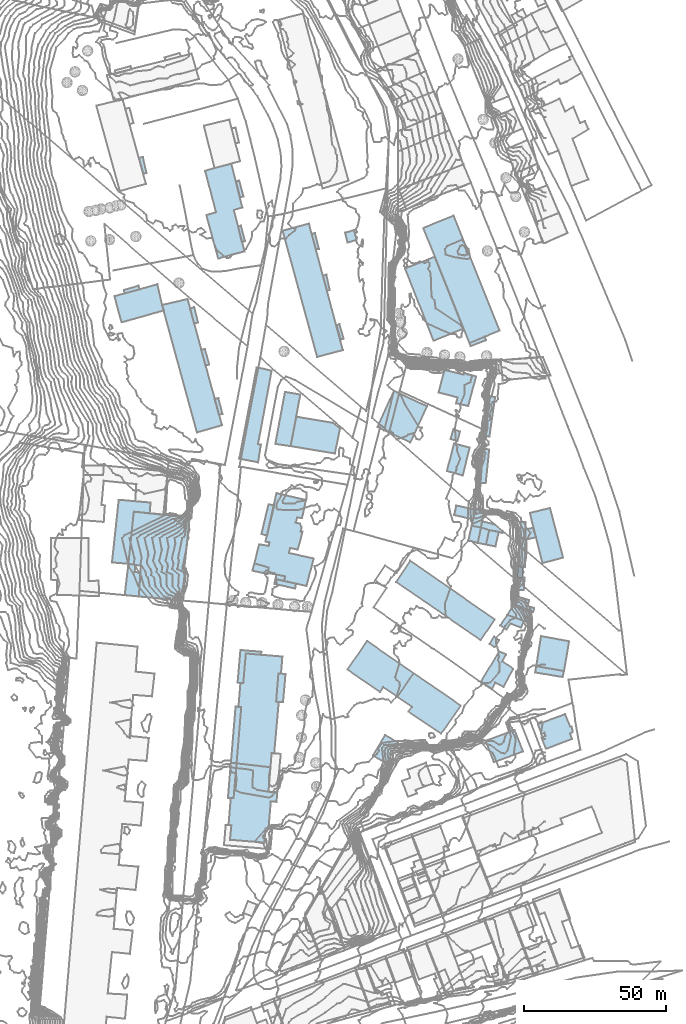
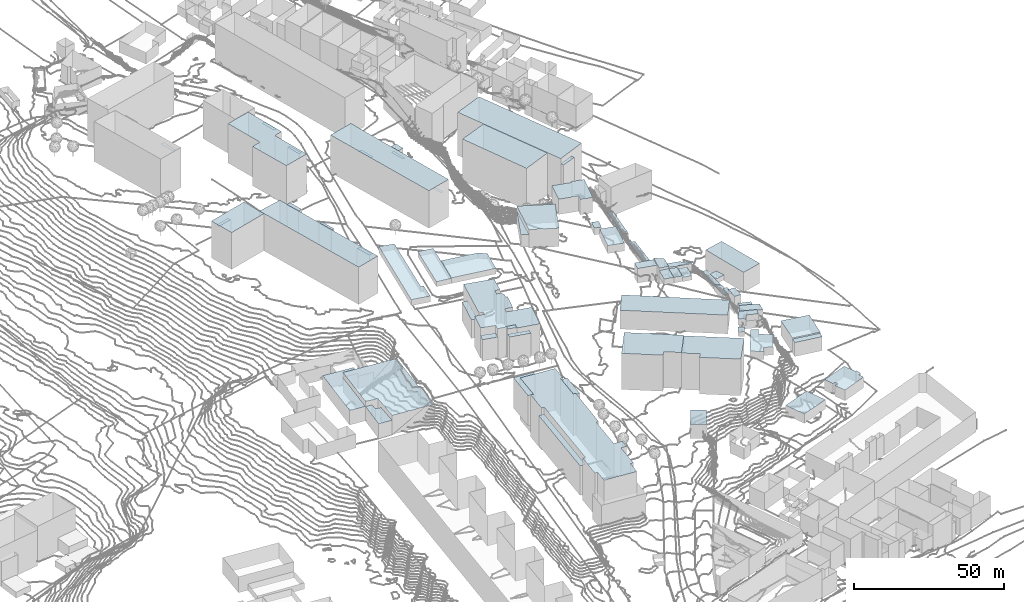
# Not in any storey, part 95 of 419: 65 roofs.
"""IFC2X3 model written with IfcOpenShell, lengths in metres."""

from ifc_helpers import new_model, si_unit, frame, origin_with_axes, place, context, subcontext, project, faceted_brep, element, save


model = new_model("IFC2X3")

# Units and contexts
model_context = context("Model", 3, precision=1e-05, world=origin_with_axes())
body_context = subcontext(model_context, "Body", "Model", "MODEL_VIEW")
ifc_project = project(units=[si_unit("AREAUNIT", "SQUARE_METRE"), si_unit("LENGTHUNIT", "METRE")], contexts=[model_context])

# Roofs
roof_1_placement = place(None, frame((966.4920204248, 798.5976909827, 87.6229010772), z_axis=(0.0, 0.0, 1.0), x_axis=(1.0, 0.0, 0.0)))
element("IfcRoof", 1, at=roof_1_placement, Name="Toiture 0", ShapeType="NOTDEFINED", context=body_context, shape_type="Brep", body=[
    faceted_brep([(0.2, 3.0999999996, 6.9770989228), (0.0, 0.0, 6.9770989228), (2.4, -0.1000000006, 6.9770989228), (2.7, 4.3999999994, 6.9770989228), (0.1, 4.5999999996, 6.9770989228)], [[[0, 1, 2]], [[2, 3, 4]], [[4, 0, 2]]]),
])
roof_2_placement = place(None, frame((919.6920204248, 854.8976909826, 96.6100009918), z_axis=(0.0, 0.0, 1.0), x_axis=(1.0, 0.0, 0.0)))
element("IfcRoof", 2, at=roof_2_placement, Name="Toiture 0", ShapeType="NOTDEFINED", context=body_context, shape_type="Brep", body=[
    faceted_brep([(13.4, 9.2000000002, 7.4899990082), (3.4, 13.9000000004, 7.4899990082), (0.0, 0.0, 7.4899990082), (9.2000000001, -4.2999999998, 7.4899990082), (15.1, 8.5, 7.4899990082)], [[[0, 1, 2]], [[2, 3, 4]], [[4, 0, 2]]]),
])
roof_3_placement = place(None, frame((953.7920204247, 766.2976909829, 93.1307992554), z_axis=(0.0, 0.0, 1.0), x_axis=(1.0, 0.0, 0.0)))
element("IfcRoof", 3, at=roof_3_placement, Name="Toiture 0", ShapeType="NOTDEFINED", context=body_context, shape_type="Brep", body=[
    faceted_brep([(8.8, 9.5999999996, 3.2692007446), (6.4, 10.5999999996, 3.2692007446), (0.0, 0.0, 3.2692007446), (3.9, -2.6000000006, 3.2692007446), (5.0, -0.4000000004, 3.2692007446), (7.9, -1.9000000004, 3.2692007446), (11.4, 4.5, 3.2692007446), (7.5, 7.0999999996, 3.2692007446)], [[[0, 1, 2]], [[2, 3, 4]], [[4, 5, 6]], [[7, 0, 2]], [[2, 4, 6]], [[6, 7, 2]]]),
])
roof_4_placement = place(None, frame((864.7920204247, 715.6976909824, 91.3789970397), z_axis=(0.0, 0.0, 1.0), x_axis=(1.0, 0.0, 0.0)))
element("IfcRoof", 4, at=roof_4_placement, Name="Toiture 0", ShapeType="NOTDEFINED", context=body_context, shape_type="Brep", body=[
    faceted_brep([(5.2000000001, 50.0, 17.1210029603), (4.2000000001, 50.1000000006, 17.1210029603), (3.5, 41.7000000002, 17.1210029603), (1.8, 9.5, 17.1210029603), (0.8, 9.5, 17.1210029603), (0.0, 0.0, 17.1210029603), (1.0, -0.0999999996, 17.1210029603), (0.5, -5.2000000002, 17.1210029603), (12.6000000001, -6.2000000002, 17.1210029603), (13.1000000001, -1.2000000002, 17.1210029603), (14.1000000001, -1.2999999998, 17.1210029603), (14.9, 8.2999999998, 17.1210029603), (16.9, 8.2000000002, 17.1210029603), (17.2000000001, 11.5, 17.1210029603), (15.2000000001, 25.4000000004, 17.1210029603), (16.1000000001, 25.2999999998, 17.1210029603), (17.7000000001, 43.4000000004, 17.1210029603), (17.6000000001, 53.5, 17.1210029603), (18.5, 53.4000000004, 17.1210029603), (19.0, 59.4000000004, 17.1210029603), (6.1000000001, 60.5, 17.1210029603), (4.5, 41.6000000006, 17.1210029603), (14.1000000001, 11.7999999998, 17.1210029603), (16.8, 43.5, 17.1210029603)], [[[0, 1, 2]], [[3, 4, 5]], [[6, 7, 8]], [[9, 10, 11]], [[11, 12, 13]], [[14, 15, 16]], [[17, 18, 19]], [[19, 20, 0]], [[0, 2, 21]], [[3, 5, 6]], [[6, 8, 9]], [[11, 13, 22]], [[14, 16, 23]], [[17, 19, 0]], [[21, 3, 6]], [[6, 9, 11]], [[14, 23, 17]], [[17, 0, 21]], [[21, 6, 11]], [[14, 17, 21]], [[21, 11, 22]], [[22, 14, 21]]]),
])
roof_5_placement = place(None, frame((867.9920204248, 765.8976909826, 96.2319999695), z_axis=(0.0, 0.0, 1.0), x_axis=(1.0, 0.0, 0.0)))
element("IfcRoof", 5, at=roof_5_placement, Name="Toiture 0", ShapeType="NOTDEFINED", context=body_context, shape_type="Brep", body=[
    faceted_brep([(2.9, 10.2999999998, 12.2680000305), (8.2999999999, 9.7999999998, 12.2680000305), (8.4, 10.9000000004, 12.2680000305), (1.0, 11.5, 12.2680000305), (0.0, 0.0, 12.2680000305), (2.0, -0.2000000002, 12.2680000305)], [[[0, 1, 2]], [[3, 4, 5]], [[0, 2, 3]], [[3, 5, 0]]]),
])
roof_6_placement = place(None, frame((972.8920204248, 769.4976909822, 85.5200004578), z_axis=(0.0, 0.0, 1.0), x_axis=(1.0, 0.0, 0.0)))
element("IfcRoof", 6, at=roof_6_placement, Name="Toiture 0", ShapeType="NOTDEFINED", context=body_context, shape_type="Brep", body=[
    faceted_brep([(10.2, 0.5, 5.6799995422), (0.3999999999, 2.2000000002, 5.6799995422), (0.0, 0.0, 5.6799995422), (9.7, -1.5999999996, 5.6799995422)], [[[0, 1, 2]], [[2, 3, 0]]]),
])
roof_7_placement = place(None, frame((953.7920204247, 820.5976909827, 94.747599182), z_axis=(0.0, 0.0, 1.0), x_axis=(1.0, 0.0, 0.0)))
element("IfcRoof", 7, at=roof_7_placement, Name="Toiture 0", ShapeType="NOTDEFINED", context=body_context, shape_type="Brep", body=[
    faceted_brep([(0.4, 2.2000000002, 2.852400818), (0.0, 0.0, 2.852400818), (2.9, -0.9000000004, 2.852400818), (7.7000000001, -1.9000000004, 2.852400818), (7.8, -1.4000000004, 2.852400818), (4.8, 1.0999999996, 2.852400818)], [[[0, 1, 2]], [[2, 3, 4]], [[4, 5, 0]], [[0, 2, 4]]]),
])
roof_8_placement = place(None, frame((856.5920204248, 946.3976909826, 97.8904017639), z_axis=(0.0, 0.0, 1.0), x_axis=(1.0, 0.0, 0.0)))
element("IfcRoof", 8, at=roof_8_placement, Name="Toiture 0", ShapeType="NOTDEFINED", context=body_context, shape_type="Brep", body=[
    faceted_brep([(9.2, 2.5, 16.0095982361), (3.3, 1.0, 16.0095982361), (0.0, 0.0, 16.0095982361), (3.8, -14.5999999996, 16.0095982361), (0.4, -15.5999999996, 16.0095982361), (4.6, -30.9000000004, 16.0095982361), (13.9, -28.4000000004, 16.0095982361), (10.1, -13.7999999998, 16.0095982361), (13.1, -12.9000000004, 16.0095982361)], [[[0, 1, 2]], [[3, 4, 5]], [[5, 6, 7]], [[7, 8, 0]], [[0, 2, 3]], [[3, 5, 7]], [[7, 0, 3]]]),
])
roof_9_placement = place(None, frame((955.4920204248, 745.3976909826, 82.5194986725), z_axis=(0.0, 0.0, 1.0), x_axis=(1.0, 0.0, 0.0)))
element("IfcRoof", 9, at=roof_9_placement, Name="Toiture 0", ShapeType="NOTDEFINED", context=body_context, shape_type="Brep", body=[
    faceted_brep([(13.2, -3.7000000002, 3.7805013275), (10.2, 3.7999999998, 3.7805013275), (0.0, 0.0, 3.7805013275), (2.9, -7.5, 3.7805013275)], [[[0, 1, 2]], [[2, 3, 0]]]),
])
roof_10_placement = place(None, frame((973.8920204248, 751.2976909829, 82.4180023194), z_axis=(0.0, 0.0, 1.0), x_axis=(1.0, 0.0, 0.0)))
element("IfcRoof", 10, at=roof_10_placement, Name="Toiture 0", ShapeType="NOTDEFINED", context=body_context, shape_type="Brep", body=[
    faceted_brep([(2.7, -4.2000000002, 4.3819976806), (1.6, -4.5, 4.3819976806), (1.2999999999, -4.7000000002, 4.3819976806), (2.8999999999, -8.7000000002, 4.3819976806), (12.0, -5.2000000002, 4.3819976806), (11.3999999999, -3.3000000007, 4.3819976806), (12.2999999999, -2.8000000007, 4.3819976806), (11.8999999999, -0.8000000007, 4.3819976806), (11.3999999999, -0.9000000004, 4.3819976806), (9.6, 3.5, 4.3819976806), (0.0, 0.0, 4.3819976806), (1.2999999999, -3.5, 4.3819976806), (2.2999999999, -3.0, 4.3819976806)], [[[0, 1, 2]], [[2, 3, 4]], [[5, 6, 7]], [[8, 9, 10]], [[10, 11, 12]], [[0, 2, 4]], [[5, 7, 8]], [[8, 10, 12]], [[12, 0, 4]], [[5, 8, 12]], [[12, 4, 5]]]),
])
roof_11_placement = place(None, frame((971.0920204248, 825.7976909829, 87.4388011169), z_axis=(0.0, 0.0, 1.0), x_axis=(1.0, 0.0, 0.0)))
element("IfcRoof", 11, at=roof_11_placement, Name="Toiture 0", ShapeType="NOTDEFINED", context=body_context, shape_type="Brep", body=[
    faceted_brep([(0.0, 0.0, 8.0611988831), (2.1, -8.6000000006, 8.0611988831), (4.4, -17.7000000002, 8.0611988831), (11.7, -15.8000000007, 8.0611988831), (7.1, 1.6999999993, 8.0611988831)], [[[0, 1, 2]], [[2, 3, 4]], [[4, 0, 2]]]),
])
roof_12_placement = place(None, frame((969.3920204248, 816.2976909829, 87.8224008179), z_axis=(0.0, 0.0, 1.0), x_axis=(1.0, 0.0, 0.0)))
element("IfcRoof", 12, at=roof_12_placement, Name="Toiture 0", ShapeType="NOTDEFINED", context=body_context, shape_type="Brep", body=[
    faceted_brep([(0.1, 3.6999999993, 1.9775991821), (0.0, 0.0, 1.9775991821), (3.7999999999, 0.8999999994, 1.9775991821), (2.7999999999, 4.1999999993, 1.9775991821)], [[[0, 1, 2]], [[2, 3, 0]]]),
])
roof_13_placement = place(None, frame((859.8920204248, 865.9976909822, 97.2720973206), z_axis=(0.0, 0.0, 1.0), x_axis=(1.0, 0.0, 0.0)))
element("IfcRoof", 13, at=roof_13_placement, Name="Toiture 0", ShapeType="NOTDEFINED", context=body_context, shape_type="Brep", body=[
    faceted_brep([(0.0, 0.0, 13.4279026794), (1.5, -5.5999999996, 13.4279026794), (2.7999999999, -5.2999999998, 13.4279026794), (1.2999999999, 0.2000000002, 13.4279026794)], [[[0, 1, 2]], [[2, 3, 0]]]),
])
roof_14_placement = place(None, frame((873.8920204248, 807.8976909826, 96.2265022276), z_axis=(0.0, 0.0, 1.0), x_axis=(1.0, 0.0, 0.0)))
element("IfcRoof", 14, at=roof_14_placement, Name="Toiture 0", ShapeType="NOTDEFINED", context=body_context, shape_type="Brep", body=[
    faceted_brep([(1.7, 6.7999999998, 12.3734977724), (0.0, 0.0, 12.3734977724), (5.1, -1.4000000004, 12.3734977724), (4.7, -3.2999999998, 12.3734977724), (10.8999999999, -4.5, 12.3734977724), (10.5, -6.2000000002, 12.3734977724), (18.3999999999, -7.9000000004, 12.3734977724), (20.8999999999, 1.7999999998, 12.3734977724), (12.2, 3.7000000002, 12.3734977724), (12.6, 5.5, 12.3734977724), (15.2999999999, 4.9000000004, 12.3734977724), (17.0, 11.2999999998, 12.3734977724), (16.2999999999, 11.2999999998, 12.3734977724), (16.7, 12.7999999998, 12.3734977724), (16.1, 14.0999999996, 12.3734977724), (15.1, 16.2999999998, 12.3734977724), (16.7999999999, 16.0, 12.3734977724), (18.2, 22.4000000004, 12.3734977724), (7.7999999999, 24.7999999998, 12.3734977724), (3.8999999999, 7.7000000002, 12.3734977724), (5.1, 6.2000000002, 12.3734977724), (14.6, 14.4000000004, 12.3734977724), (5.2999999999, 7.5, 12.3734977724)], [[[0, 1, 2]], [[2, 3, 4]], [[4, 5, 6]], [[6, 7, 8]], [[9, 10, 11]], [[12, 13, 14]], [[15, 16, 17]], [[17, 18, 19]], [[20, 0, 2]], [[2, 4, 6]], [[9, 11, 12]], [[12, 14, 21]], [[15, 17, 19]], [[22, 20, 2]], [[2, 6, 8]], [[9, 12, 21]], [[21, 15, 19]], [[22, 2, 8]], [[21, 19, 22]], [[22, 8, 9]], [[9, 21, 22]]]),
])
roof_15_placement = place(None, frame((955.0920204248, 852.8976909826, 88.6566027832), z_axis=(0.0, 0.0, 1.0), x_axis=(1.0, 0.0, 0.0)))
element("IfcRoof", 15, at=roof_15_placement, Name="Toiture 0", ShapeType="NOTDEFINED", context=body_context, shape_type="Brep", body=[
    faceted_brep([(3.7, 13.7000000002, 2.3433972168), (1.7, 14.0, 2.3433972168), (0.0, 0.0, 2.3433972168), (1.7, -0.2000000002, 2.3433972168)], [[[0, 1, 2]], [[2, 3, 0]]]),
])
roof_16_placement = place(None, frame((851.1920204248, 897.8976909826, 97.4899997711), z_axis=(0.0, 0.0, 1.0), x_axis=(1.0, 0.0, 0.0)))
element("IfcRoof", 16, at=roof_16_placement, Name="Toiture 0", ShapeType="NOTDEFINED", context=body_context, shape_type="Brep", body=[
    faceted_brep([(1.5, 0.4000000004, 14.8100002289), (0.0, 0.0, 14.8100002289), (1.5, -5.2999999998, 14.8100002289), (2.9, -5.0, 14.8100002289)], [[[0, 1, 2]], [[2, 3, 0]]]),
])
roof_17_placement = place(None, frame((867.4920204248, 942.6976909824, 98.3299980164), z_axis=(0.0, 0.0, 1.0), x_axis=(1.0, 0.0, 0.0)))
element("IfcRoof", 17, at=roof_17_placement, Name="Toiture 0", ShapeType="NOTDEFINED", context=body_context, shape_type="Brep", body=[
    faceted_brep([(1.1, 0.2000000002, 14.1700019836), (0.0, 0.0, 14.1700019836), (1.4, -5.5999999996, 14.1700019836), (2.6, -5.2999999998, 14.1700019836)], [[[0, 1, 2]], [[2, 3, 0]]]),
])
roof_18_placement = place(None, frame((881.5920204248, 759.1976909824, 96.2240005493), z_axis=(0.0, 0.0, 1.0), x_axis=(1.0, 0.0, 0.0)))
element("IfcRoof", 18, at=roof_18_placement, Name="Toiture 0", ShapeType="NOTDEFINED", context=body_context, shape_type="Brep", body=[
    faceted_brep([(3.3, 9.7000000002, 11.7759994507), (1.7, 9.9000000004, 11.7759994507), (0.8, 10.0, 11.7759994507), (0.0, 0.0, 11.7759994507), (2.4, -0.2000000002, 11.7759994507)], [[[0, 1, 2]], [[2, 3, 4]], [[4, 0, 2]]]),
])
roof_19_placement = place(None, frame((956.7920204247, 779.5976909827, 93.3320007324), z_axis=(0.0, 0.0, 1.0), x_axis=(1.0, 0.0, 0.0)))
element("IfcRoof", 19, at=roof_19_placement, Name="Toiture 0", ShapeType="NOTDEFINED", context=body_context, shape_type="Brep", body=[
    faceted_brep([(3.4, 1.2999999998, 1.7679992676), (1.6000000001, 2.5, 1.7679992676), (0.0, 0.0, 1.7679992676), (1.8, -1.2000000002, 1.7679992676)], [[[0, 1, 2]], [[2, 3, 0]]]),
])
roof_20_placement = place(None, frame((924.2920204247, 760.8976909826, 94.2938012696), z_axis=(0.0, 0.0, 1.0), x_axis=(1.0, 0.0, 0.0)))
element("IfcRoof", 20, at=roof_20_placement, Name="Toiture 0", ShapeType="NOTDEFINED", context=body_context, shape_type="Brep", body=[
    faceted_brep([(22.4, -3.0999999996, 14.9061987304), (5.7000000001, 8.2999999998, 14.9061987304), (0.0, 0.0, 14.9061987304), (5.2000000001, -3.5, 14.9061987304), (3.9, -5.2000000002, 14.9061987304), (15.4, -13.0, 14.9061987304)], [[[0, 1, 2]], [[3, 4, 5]], [[0, 2, 3]], [[3, 5, 0]]]),
])
roof_21_placement = place(None, frame((927.0920204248, 911.9976909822, 86.8095017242), z_axis=(0.0, 0.0, 1.0), x_axis=(1.0, 0.0, 0.0)))
element("IfcRoof", 21, at=roof_21_placement, Name="Toiture 0", ShapeType="NOTDEFINED", context=body_context, shape_type="Brep", body=[
    faceted_brep([(10.0, -25.5, 16.9904982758), (20.5, -21.1999999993, 16.9904982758), (10.4, 4.1000000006, 16.9904982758), (0.0, 0.0, 16.9904982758)], [[[0, 1, 2]], [[2, 3, 0]]]),
])
roof_22_placement = place(None, frame((886.6920204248, 849.2976909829, 97.1301996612), z_axis=(0.0, 0.0, 1.0), x_axis=(1.0, 0.0, 0.0)))
element("IfcRoof", 22, at=roof_22_placement, Name="Toiture 0", ShapeType="NOTDEFINED", context=body_context, shape_type="Brep", body=[
    faceted_brep([(15.6, -2.6000000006, 2.2698003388), (17.4, 6.1999999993, 2.2698003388), (14.9, 8.1999999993, 2.2698003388), (2.0, 10.3999999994, 2.2698003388), (0.0, 0.0, 2.2698003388)], [[[0, 1, 2]], [[2, 3, 4]], [[4, 0, 2]]]),
])
roof_23_placement = place(None, frame((963.0920204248, 789.7976909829, 87.6648019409), z_axis=(0.0, 0.0, 1.0), x_axis=(1.0, 0.0, 0.0)))
element("IfcRoof", 23, at=roof_23_placement, Name="Toiture 0", ShapeType="NOTDEFINED", context=body_context, shape_type="Brep", body=[
    faceted_brep([(0.0, 0.0, 7.1351980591), (7.7, -2.8000000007, 7.1351980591), (8.3, 0.7999999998, 7.1351980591), (1.7, 3.3999999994, 7.1351980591), (1.7, 2.6999999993, 7.1351980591)], [[[0, 1, 2]], [[2, 3, 4]], [[4, 0, 2]]]),
])
roof_24_placement = place(None, frame((881.2920204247, 850.0976909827, 97.16780159), z_axis=(0.0, 0.0, 1.0), x_axis=(1.0, 0.0, 0.0)))
element("IfcRoof", 24, at=roof_24_placement, Name="Toiture 0", ShapeType="NOTDEFINED", context=body_context, shape_type="Brep", body=[
    faceted_brep([(5.4, -0.7999999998, 2.03219841), (8.8, 17.3999999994, 2.03219841), (3.4, 18.2999999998, 2.03219841), (0.0, 0.0, 2.03219841)], [[[0, 1, 2]], [[2, 3, 0]]]),
])
roof_25_placement = place(None, frame((881.2920204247, 802.4976909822, 97.0060984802), z_axis=(0.0, 0.0, 1.0), x_axis=(1.0, 0.0, 0.0)))
element("IfcRoof", 25, at=roof_25_placement, Name="Toiture 0", ShapeType="NOTDEFINED", context=body_context, shape_type="Brep", body=[
    faceted_brep([(0.4, 1.5, 11.7939015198), (0.0, 0.0, 11.7939015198), (3.1000000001, -0.7999999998, 11.7939015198), (3.5, 0.9000000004, 11.7939015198)], [[[0, 1, 2]], [[2, 3, 0]]]),
])
roof_26_placement = place(None, frame((966.8920204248, 806.8976909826, 87.638598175), z_axis=(0.0, 0.0, 1.0), x_axis=(1.0, 0.0, 0.0)))
element("IfcRoof", 26, at=roof_26_placement, Name="Toiture 0", ShapeType="NOTDEFINED", context=body_context, shape_type="Brep", body=[
    faceted_brep([(1.5, -0.0999999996, 2.361401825), (2.5, -0.2000000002, 2.361401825), (2.5, 5.2000000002, 2.361401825), (0.3999999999, 6.7999999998, 2.361401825), (0.0, 0.0, 2.361401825)], [[[0, 1, 2]], [[2, 3, 4]], [[4, 0, 2]]]),
])
roof_27_placement = place(None, frame((953.2920204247, 836.3976909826, 88.0883973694), z_axis=(0.0, 0.0, 1.0), x_axis=(1.0, 0.0, 0.0)))
element("IfcRoof", 27, at=roof_27_placement, Name="Toiture 0", ShapeType="NOTDEFINED", context=body_context, shape_type="Brep", body=[
    faceted_brep([(2.2000000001, -0.0999999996, 2.4116026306), (3.4, 11.7000000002, 2.4116026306), (1.3, 12.0999999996, 2.4116026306), (0.0, 0.0, 2.4116026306)], [[[0, 1, 2]], [[2, 3, 0]]]),
])
roof_28_placement = place(None, frame((967.3920204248, 814.2976909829, 87.8290016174), z_axis=(0.0, 0.0, 1.0), x_axis=(1.0, 0.0, 0.0)))
element("IfcRoof", 28, at=roof_28_placement, Name="Toiture 0", ShapeType="NOTDEFINED", context=body_context, shape_type="Brep", body=[
    faceted_brep([(0.0, 0.0, 1.9709983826), (2.0, -1.5, 1.9709983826), (2.2, 8.1999999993, 1.9709983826), (0.2, 8.1999999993, 1.9709983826), (0.5, 7.1999999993, 1.9709983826)], [[[0, 1, 2]], [[2, 3, 4]], [[4, 0, 2]]]),
])
roof_29_placement = place(None, frame((966.5920204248, 803.1976909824, 87.7783999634), z_axis=(0.0, 0.0, 1.0), x_axis=(1.0, 0.0, 0.0)))
element("IfcRoof", 29, at=roof_29_placement, Name="Toiture 0", ShapeType="NOTDEFINED", context=body_context, shape_type="Brep", body=[
    faceted_brep([(0.3, 3.7000000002, 4.9216000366), (0.0, 0.0, 4.9216000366), (1.8, -0.2000000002, 4.9216000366), (1.8, 3.6000000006, 4.9216000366)], [[[0, 1, 2]], [[2, 3, 0]]]),
])
roof_30_placement = place(None, frame((868.1920204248, 926.6976909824, 98.0819992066), z_axis=(0.0, 0.0, 1.0), x_axis=(1.0, 0.0, 0.0)))
element("IfcRoof", 30, at=roof_30_placement, Name="Toiture 0", ShapeType="NOTDEFINED", context=body_context, shape_type="Brep", body=[
    faceted_brep([(0.0, 0.0, 14.1180007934), (1.3, -5.3999999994, 14.1180007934), (2.4, -5.0999999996, 14.1180007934), (1.0, 0.4000000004, 14.1180007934)], [[[0, 1, 2]], [[2, 3, 0]]]),
])
roof_31_placement = place(None, frame((833.1920204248, 950.9976909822, 98.5739990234), z_axis=(0.0, 0.0, 1.0), x_axis=(1.0, 0.0, 0.0)))
element("IfcRoof", 31, at=roof_31_placement, Name="Toiture 0", ShapeType="NOTDEFINED", context=body_context, shape_type="Brep", body=[
    faceted_brep([(0.0, 0.0, 12.4260009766), (1.6, -5.5999999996, 12.4260009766), (2.7000000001, -5.2999999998, 12.4260009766), (1.4, 0.3000000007, 12.4260009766)], [[[0, 1, 2]], [[2, 3, 0]]]),
])
roof_32_placement = place(None, frame((883.8920204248, 925.2976909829, 97.2430023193), z_axis=(0.0, 0.0, 1.0), x_axis=(1.0, 0.0, 0.0)))
element("IfcRoof", 32, at=roof_32_placement, Name="Toiture 0", ShapeType="NOTDEFINED", context=body_context, shape_type="Brep", body=[
    faceted_brep([(10.2, -1.1000000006, 15.2569976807), (9.2999999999, 2.5, 15.2569976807), (0.0, 0.0, 15.2569976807), (12.2, -44.5, 15.2569976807), (21.2, -42.1000000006, 15.2569976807)], [[[0, 1, 2]], [[2, 3, 4]], [[4, 0, 2]]]),
])
roof_33_placement = place(None, frame((960.5920204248, 786.0976909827, 92.645898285), z_axis=(0.0, 0.0, 1.0), x_axis=(1.0, 0.0, 0.0)))
element("IfcRoof", 33, at=roof_33_placement, Name="Toiture 0", ShapeType="NOTDEFINED", context=body_context, shape_type="Brep", body=[
    faceted_brep([(7.4, -0.7999999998, 2.454101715), (8.3, 1.5999999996, 2.454101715), (2.5, 3.7000000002, 2.454101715), (0.0, 0.0, 2.454101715), (2.2, -1.5, 2.454101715), (3.6, 0.5999999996, 2.454101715)], [[[0, 1, 2]], [[2, 3, 4]], [[5, 0, 2]], [[2, 4, 5]]]),
])
roof_34_placement = place(None, frame((950.4920204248, 821.1976909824, 91.573501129), z_axis=(0.0, 0.0, 1.0), x_axis=(1.0, 0.0, 0.0)))
element("IfcRoof", 34, at=roof_34_placement, Name="Toiture 0", ShapeType="NOTDEFINED", context=body_context, shape_type="Brep", body=[
    faceted_brep([(1.4, 6.1000000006, 6.426498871), (0.0, 0.0, 6.426498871), (3.2999999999, -0.5999999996, 6.426498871), (4.2999999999, 3.9000000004, 6.426498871)], [[[0, 1, 2]], [[2, 3, 0]]]),
])
roof_35_placement = place(None, frame((894.0920204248, 924.1976909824, 97.4109981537), z_axis=(0.0, 0.0, 1.0), x_axis=(1.0, 0.0, 0.0)))
element("IfcRoof", 35, at=roof_35_placement, Name="Toiture 0", ShapeType="NOTDEFINED", context=body_context, shape_type="Brep", body=[
    faceted_brep([(1.2, 0.2000000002, 5.5890018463), (0.0, 0.0, 5.5890018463), (1.6, -5.5, 5.5890018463), (2.6, -5.2999999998, 5.5890018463)], [[[0, 1, 2]], [[2, 3, 0]]]),
])
roof_36_placement = place(None, frame((933.4920204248, 926.2976909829, 86.2701992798), z_axis=(0.0, 0.0, 1.0), x_axis=(1.0, 0.0, 0.0)))
element("IfcRoof", 36, at=roof_36_placement, Name="Toiture 0", ShapeType="NOTDEFINED", context=body_context, shape_type="Brep", body=[
    faceted_brep([(0.0, 0.0, 17.5298007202), (16.2999999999, -40.6000000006, 17.5298007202), (26.9, -36.2000000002, 17.5298007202), (10.7, 4.2999999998, 17.5298007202)], [[[0, 1, 2]], [[2, 3, 0]]]),
])
roof_37_placement = place(None, frame((973.2920204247, 771.6976909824, 85.6960006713), z_axis=(0.0, 0.0, 1.0), x_axis=(1.0, 0.0, 0.0)))
element("IfcRoof", 37, at=roof_37_placement, Name="Toiture 0", ShapeType="NOTDEFINED", context=body_context, shape_type="Brep", body=[
    faceted_brep([(1.7000000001, 10.6000000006, 5.9039993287), (0.0, 0.0, 5.9039993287), (9.8, -1.7000000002, 5.9039993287), (11.6000000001, 8.7999999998, 5.9039993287)], [[[0, 1, 2]], [[2, 3, 0]]]),
])
roof_38_placement = place(None, frame((864.5920204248, 725.2976909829, 93.6399993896), z_axis=(0.0, 0.0, 1.0), x_axis=(1.0, 0.0, 0.0)))
element("IfcRoof", 38, at=roof_38_placement, Name="Toiture 0", ShapeType="NOTDEFINED", context=body_context, shape_type="Brep", body=[
    faceted_brep([(0.0, 0.0, 12.0600006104), (1.0, -0.1000000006, 12.0600006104), (2.0, -0.1000000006, 12.0600006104), (4.7, 32.0, 12.0600006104), (2.7, 32.1999999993, 12.0600006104)], [[[0, 1, 2]], [[2, 3, 4]], [[4, 0, 2]]]),
])
roof_39_placement = place(None, frame((915.6920204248, 740.1976909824, 89.911000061), z_axis=(0.0, 0.0, 1.0), x_axis=(1.0, 0.0, 0.0)))
element("IfcRoof", 39, at=roof_39_placement, Name="Toiture 0", ShapeType="NOTDEFINED", context=body_context, shape_type="Brep", body=[
    faceted_brep([(4.3, 7.2000000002, 5.788999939), (0.0, 0.0, 5.788999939), (4.8, -2.7999999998, 5.788999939), (8.9, 4.5, 5.788999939)], [[[0, 1, 2]], [[2, 3, 0]]]),
])
roof_40_placement = place(None, frame((943.0920204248, 851.7976909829, 95.6379974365), z_axis=(0.0, 0.0, 1.0), x_axis=(1.0, 0.0, 0.0)))
element("IfcRoof", 40, at=roof_40_placement, Name="Toiture 0", ShapeType="NOTDEFINED", context=body_context, shape_type="Brep", body=[
    faceted_brep([(0.0, 0.0, 2.7620025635), (2.4, -0.7000000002, 2.7620025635), (3.3, 2.5999999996, 2.7620025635), (1.0, 3.5, 2.7620025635)], [[[0, 1, 2]], [[2, 3, 0]]]),
])
roof_41_placement = place(None, frame((828.1920204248, 796.7976909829, 86.2067993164), z_axis=(0.0, 0.0, 1.0), x_axis=(1.0, 0.0, 0.0)))
element("IfcRoof", 41, at=roof_41_placement, Name="Toiture 0", ShapeType="NOTDEFINED", context=body_context, shape_type="Brep", body=[
    faceted_brep([(0.0, 0.0, 5.9932006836), (5.0, -0.5, 5.9932006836), (5.5, 7.7999999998, 5.9932006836), (3.5, 8.1999999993, 5.9932006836), (3.7000000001, 10.5999999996, 5.9932006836), (1.3, 11.0, 5.9932006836)], [[[0, 1, 2]], [[3, 4, 5]], [[0, 2, 3]], [[3, 5, 0]]]),
])
roof_42_placement = place(None, frame((944.3920204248, 824.9976909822, 91.7925010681), z_axis=(0.0, 0.0, 1.0), x_axis=(1.0, 0.0, 0.0)))
element("IfcRoof", 42, at=roof_42_placement, Name="Toiture 0", ShapeType="NOTDEFINED", context=body_context, shape_type="Brep", body=[
    faceted_brep([(0.0, 0.0, 5.9074989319), (6.6, -1.5, 5.9074989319), (7.2999999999, 1.9000000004, 5.9074989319), (0.7, 3.4000000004, 5.9074989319)], [[[0, 1, 2]], [[2, 3, 0]]]),
])
roof_43_placement = place(None, frame((917.2920204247, 856.0976909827, 97.0349990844), z_axis=(0.0, 0.0, 1.0), x_axis=(1.0, 0.0, 0.0)))
element("IfcRoof", 43, at=roof_43_placement, Name="Toiture 0", ShapeType="NOTDEFINED", context=body_context, shape_type="Brep", body=[
    faceted_brep([(0.0, 0.0, 5.1650009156), (2.4, -1.2000000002, 5.1650009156), (5.8, 12.7000000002, 5.1650009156)], [[[0, 1, 2]]]),
])
roof_44_placement = place(None, frame((955.5920204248, 814.5976909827, 94.7439998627), z_axis=(0.0, 0.0, 1.0), x_axis=(1.0, 0.0, 0.0)))
element("IfcRoof", 44, at=roof_44_placement, Name="Toiture 0", ShapeType="NOTDEFINED", context=body_context, shape_type="Brep", body=[
    faceted_brep([(1.1, 5.0999999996, 1.7560001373), (0.0, 0.0, 1.7560001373), (3.3, -0.7000000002, 1.7560001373), (4.5, 4.5, 1.7560001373)], [[[0, 1, 2]], [[2, 3, 0]]]),
])
roof_45_placement = place(None, frame((873.1920204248, 805.3976909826, 96.8764018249), z_axis=(0.0, 0.0, 1.0), x_axis=(1.0, 0.0, 0.0)))
element("IfcRoof", 45, at=roof_45_placement, Name="Toiture 0", ShapeType="NOTDEFINED", context=body_context, shape_type="Brep", body=[
    faceted_brep([(5.8, 1.0999999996, 8.6235981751), (0.7000000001, 2.5, 8.6235981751), (0.0, 0.0, 8.6235981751), (5.3, -1.2000000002, 8.6235981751)], [[[0, 1, 2]], [[2, 3, 0]]]),
])
roof_46_placement = place(None, frame((823.6920204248, 808.2976909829, 86.3220993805), z_axis=(0.0, 0.0, 1.0), x_axis=(1.0, 0.0, 0.0)))
element("IfcRoof", 46, at=roof_46_placement, Name="Toiture 0", ShapeType="NOTDEFINED", context=body_context, shape_type="Brep", body=[
    faceted_brep([(7.7000000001, 17.8999999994, 5.8779006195), (13.3, 17.2999999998, 5.8779006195), (13.6, 21.0999999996, 5.8779006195), (2.4, 22.0999999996, 5.8779006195), (0.0, 0.0, 5.8779006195), (5.8, -0.5, 5.8779006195)], [[[0, 1, 2]], [[3, 4, 5]], [[0, 2, 3]], [[3, 5, 0]]]),
])
roof_47_placement = place(None, frame((880.9920204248, 800.6976909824, 96.9460003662), z_axis=(0.0, 0.0, 1.0), x_axis=(1.0, 0.0, 0.0)))
element("IfcRoof", 47, at=roof_47_placement, Name="Toiture 0", ShapeType="NOTDEFINED", context=body_context, shape_type="Brep", body=[
    faceted_brep([(7.2999999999, -1.5999999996, 9.7539996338), (7.6, 0.1000000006, 9.7539996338), (0.2999999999, 1.7999999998, 9.7539996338), (0.0, 0.0, 9.7539996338)], [[[0, 1, 2]], [[2, 3, 0]]]),
])
roof_48_placement = place(None, frame((827.9920204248, 904.3976909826, 97.4119995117), z_axis=(0.0, 0.0, 1.0), x_axis=(1.0, 0.0, 0.0)))
element("IfcRoof", 48, at=roof_48_placement, Name="Toiture 0", ShapeType="NOTDEFINED", context=body_context, shape_type="Brep", body=[
    faceted_brep([(0.1, -1.2000000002, 10.7880004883), (5.5, 0.2000000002, 10.7880004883), (5.1, 1.5, 10.7880004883), (0.0, 0.0, 10.7880004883)], [[[0, 1, 2]], [[2, 3, 0]]]),
])
roof_49_placement = place(None, frame((876.3920204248, 818.2976909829, 97.1100028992), z_axis=(0.0, 0.0, 1.0), x_axis=(1.0, 0.0, 0.0)))
element("IfcRoof", 49, at=roof_49_placement, Name="Toiture 0", ShapeType="NOTDEFINED", context=body_context, shape_type="Brep", body=[
    faceted_brep([(0.0, 0.0, 7.5899971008), (2.0, -0.5, 7.5899971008), (4.5, 10.0999999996, 7.5899971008), (2.5, 10.5, 7.5899971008)], [[[0, 1, 2]], [[2, 3, 0]]]),
])
roof_50_placement = place(None, frame((829.4920204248, 807.7976909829, 86.4760025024), z_axis=(0.0, 0.0, 1.0), x_axis=(1.0, 0.0, 0.0)))
element("IfcRoof", 50, at=roof_50_placement, Name="Toiture 0", ShapeType="NOTDEFINED", context=body_context, shape_type="Brep", body=[
    faceted_brep([(3.7, -11.5, 7.7239974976), (19.2999999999, -13.0, 7.7239974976), (20.2999999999, -1.6000000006, 7.7239974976), (19.7, -1.6000000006, 7.7239974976), (21.6, 16.5, 7.7239974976), (1.9, 18.3999999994, 7.7239974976), (0.0, 0.0, 7.7239974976), (4.4, -0.7000000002, 7.7239974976)], [[[0, 1, 2]], [[3, 4, 5]], [[5, 6, 7]], [[0, 2, 3]], [[3, 5, 7]], [[7, 0, 3]]]),
])
roof_51_placement = place(None, frame((868.5920204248, 844.8976909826, 97.0700003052), z_axis=(0.0, 0.0, 1.0), x_axis=(1.0, 0.0, 0.0)))
element("IfcRoof", 51, at=roof_51_placement, Name="Toiture 0", ShapeType="NOTDEFINED", context=body_context, shape_type="Brep", body=[
    faceted_brep([(6.6, 5.0999999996, 2.4299996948), (11.4, 31.0, 2.4299996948), (6.1, 32.2000000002, 2.4299996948), (0.0, 0.0, 2.4299996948), (6.6, -1.2999999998, 2.4299996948), (7.6, 4.9000000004, 2.4299996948)], [[[0, 1, 2]], [[2, 3, 4]], [[4, 5, 0]], [[0, 2, 4]]]),
])
roof_52_placement = place(None, frame((841.3920204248, 899.0976909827, 97.1165977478), z_axis=(0.0, 0.0, 1.0), x_axis=(1.0, 0.0, 0.0)))
element("IfcRoof", 52, at=roof_52_placement, Name="Toiture 0", ShapeType="NOTDEFINED", context=body_context, shape_type="Brep", body=[
    faceted_brep([(21.1, -42.4000000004, 15.1834022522), (9.0, 2.0999999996, 15.1834022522), (0.0, 0.0, 15.1834022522), (12.2999999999, -44.9000000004, 15.1834022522)], [[[0, 1, 2]], [[2, 3, 0]]]),
])
roof_53_placement = place(None, frame((824.5920204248, 902.1976909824, 97.1800010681), z_axis=(0.0, 0.0, 1.0), x_axis=(1.0, 0.0, 0.0)))
element("IfcRoof", 53, at=roof_53_placement, Name="Toiture 0", ShapeType="NOTDEFINED", context=body_context, shape_type="Brep", body=[
    faceted_brep([(16.8, -3.0999999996, 15.0199989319), (15.1, 4.2000000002, 15.0199989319), (0.0, 0.0, 15.0199989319), (2.5, -9.2000000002, 15.0199989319), (17.5, -5.0, 15.0199989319)], [[[0, 1, 2]], [[2, 3, 4]], [[4, 0, 2]]]),
])
roof_54_placement = place(None, frame((905.8920204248, 924.5976909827, 96.9644007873), z_axis=(0.0, 0.0, 1.0), x_axis=(1.0, 0.0, 0.0)))
element("IfcRoof", 54, at=roof_54_placement, Name="Toiture 0", ShapeType="NOTDEFINED", context=body_context, shape_type="Brep", body=[
    faceted_brep([(0.0, 0.0, 3.0355992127), (0.8999999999, -3.5, 3.0355992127), (4.1, -2.5, 3.0355992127), (3.2, 0.8999999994, 3.0355992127)], [[[0, 1, 2]], [[2, 3, 0]]]),
])
roof_55_placement = place(None, frame((898.0920204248, 909.3976909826, 97.3251992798), z_axis=(0.0, 0.0, 1.0), x_axis=(1.0, 0.0, 0.0)))
element("IfcRoof", 55, at=roof_55_placement, Name="Toiture 0", ShapeType="NOTDEFINED", context=body_context, shape_type="Brep", body=[
    faceted_brep([(1.2, 0.4000000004, 12.6748007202), (0.0, 0.0, 12.6748007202), (1.5, -5.2000000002, 12.6748007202), (2.4, -5.0, 12.6748007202)], [[[0, 1, 2]], [[2, 3, 0]]]),
])
roof_56_placement = place(None, frame((902.8920204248, 891.9976909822, 97.1960021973), z_axis=(0.0, 0.0, 1.0), x_axis=(1.0, 0.0, 0.0)))
element("IfcRoof", 56, at=roof_56_placement, Name="Toiture 0", ShapeType="NOTDEFINED", context=body_context, shape_type="Brep", body=[
    faceted_brep([(0.0, 0.0, 7.8039978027), (1.5, -5.0999999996, 7.8039978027), (2.5, -4.7999999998, 7.8039978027), (1.0, 0.3000000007, 7.8039978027)], [[[0, 1, 2]], [[2, 3, 0]]]),
])
roof_57_placement = place(None, frame((949.3920204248, 815.9976909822, 94.8127993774), z_axis=(0.0, 0.0, 1.0), x_axis=(1.0, 0.0, 0.0)))
element("IfcRoof", 57, at=roof_57_placement, Name="Toiture 0", ShapeType="NOTDEFINED", context=body_context, shape_type="Brep", body=[
    faceted_brep([(1.1, 5.2000000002, 2.2872006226), (0.0, 0.0, 2.2872006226), (3.2999999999, -0.7999999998, 2.2872006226), (4.3999999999, 4.6000000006, 2.2872006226)], [[[0, 1, 2]], [[2, 3, 0]]]),
])
roof_58_placement = place(None, frame((966.2920204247, 793.2976909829, 87.1719985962), z_axis=(0.0, 0.0, 1.0), x_axis=(1.0, 0.0, 0.0)))
element("IfcRoof", 58, at=roof_58_placement, Name="Toiture 0", ShapeType="NOTDEFINED", context=body_context, shape_type="Brep", body=[
    faceted_brep([(0.0, 0.0, 6.0280014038), (5.9, -2.4000000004, 6.0280014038), (6.3, -1.1000000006, 6.0280014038), (4.0, -0.4000000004, 6.0280014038), (4.5, 1.6999999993, 6.0280014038), (0.1000000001, 3.0999999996, 6.0280014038)], [[[0, 1, 2]], [[3, 4, 5]], [[0, 2, 3]], [[3, 5, 0]]]),
])
roof_59_placement = place(None, frame((949.7920204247, 885.6976909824, 86.3489982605), z_axis=(0.0, 0.0, 1.0), x_axis=(1.0, 0.0, 0.0)))
element("IfcRoof", 59, at=roof_59_placement, Name="Toiture 0", ShapeType="NOTDEFINED", context=body_context, shape_type="Brep", body=[
    faceted_brep([(5.3, 2.2000000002, 15.3510017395), (0.0, 0.0, 15.3510017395), (0.4, -1.0999999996, 15.3510017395), (5.8, 1.0, 15.3510017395)], [[[0, 1, 2]], [[2, 3, 0]]]),
])
roof_60_placement = place(None, frame((952.6920204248, 815.1976909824, 94.8480010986), z_axis=(0.0, 0.0, 1.0), x_axis=(1.0, 0.0, 0.0)))
element("IfcRoof", 60, at=roof_60_placement, Name="Toiture 0", ShapeType="NOTDEFINED", context=body_context, shape_type="Brep", body=[
    faceted_brep([(1.1, 5.4000000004, 2.2519989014), (0.0, 0.0, 2.2519989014), (2.9, -0.5999999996, 2.2519989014), (4.0, 4.5, 2.2519989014)], [[[0, 1, 2]], [[2, 3, 0]]]),
])
roof_61_placement = place(None, frame((906.6920204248, 770.4976909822, 94.7031976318), z_axis=(0.0, 0.0, 1.0), x_axis=(1.0, 0.0, 0.0)))
element("IfcRoof", 61, at=roof_61_placement, Name="Toiture 0", ShapeType="NOTDEFINED", context=body_context, shape_type="Brep", body=[
    faceted_brep([(17.6, -9.5999999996, 14.6968023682), (23.3, -1.2999999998, 14.6968023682), (6.9, 10.1000000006, 14.6968023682), (0.0, 0.0, 14.6968023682), (11.5, -7.8999999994, 14.6968023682), (12.6, -6.1999999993, 14.6968023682)], [[[0, 1, 2]], [[2, 3, 4]], [[5, 0, 2]], [[2, 4, 5]]]),
])
roof_62_placement = place(None, frame((923.8920204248, 801.3976909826, 94.5760009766), z_axis=(0.0, 0.0, 1.0), x_axis=(1.0, 0.0, 0.0)))
element("IfcRoof", 62, at=roof_62_placement, Name="Toiture 0", ShapeType="NOTDEFINED", context=body_context, shape_type="Brep", body=[
    faceted_brep([(21.6, -4.0999999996, 7.6239990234), (5.0, 7.5, 7.6239990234), (0.0, 0.0, 7.6239990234), (29.7999999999, -20.5, 7.6239990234), (34.7, -13.2000000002, 7.6239990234)], [[[0, 1, 2]], [[2, 3, 4]], [[4, 0, 2]]]),
])
roof_63_placement = place(None, frame((941.7920204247, 840.4976909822, 95.3511987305), z_axis=(0.0, 0.0, 1.0), x_axis=(1.0, 0.0, 0.0)))
element("IfcRoof", 63, at=roof_63_placement, Name="Toiture 0", ShapeType="NOTDEFINED", context=body_context, shape_type="Brep", body=[
    faceted_brep([(0.0, 0.0, 3.2488012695), (5.6000000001, -1.5, 3.2488012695), (8.0, 8.3000000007, 3.2488012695), (2.5, 9.7000000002, 3.2488012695)], [[[0, 1, 2]], [[2, 3, 0]]]),
])
roof_64_placement = place(None, frame((938.8920204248, 868.1976909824, 95.4949989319), z_axis=(0.0, 0.0, 1.0), x_axis=(1.0, 0.0, 0.0)))
element("IfcRoof", 64, at=roof_64_placement, Name="Toiture 0", ShapeType="NOTDEFINED", context=body_context, shape_type="Brep", body=[
    faceted_brep([(6.1, -3.7999999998, 6.2050010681), (10.3999999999, -4.7000000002, 6.2050010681), (13.2, 5.7000000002, 6.2050010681), (8.7999999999, 6.9000000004, 6.2050010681), (8.7, 6.2999999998, 6.2050010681), (2.0, 8.0, 6.2050010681), (0.0, 0.0, 6.2050010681), (6.7, -1.7000000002, 6.2050010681), (6.2999999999, -3.0999999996, 6.2050010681)], [[[0, 1, 2]], [[2, 3, 4]], [[4, 5, 6]], [[7, 0, 2]], [[2, 4, 6]], [[6, 7, 2]], [[8, 0, 7]]]),
])
roof_65_placement = place(None, frame((855.1920204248, 883.2976909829, 97.4233985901), z_axis=(0.0, 0.0, 1.0), x_axis=(1.0, 0.0, 0.0)))
element("IfcRoof", 65, at=roof_65_placement, Name="Toiture 0", ShapeType="NOTDEFINED", context=body_context, shape_type="Brep", body=[
    faceted_brep([(1.3, 0.2999999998, 14.5766014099), (0.0, 0.0, 14.5766014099), (1.5, -5.5, 14.5766014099), (2.8, -5.2000000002, 14.5766014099)], [[[0, 1, 2]], [[2, 3, 0]]]),
])

save(model, "model.ifc")
